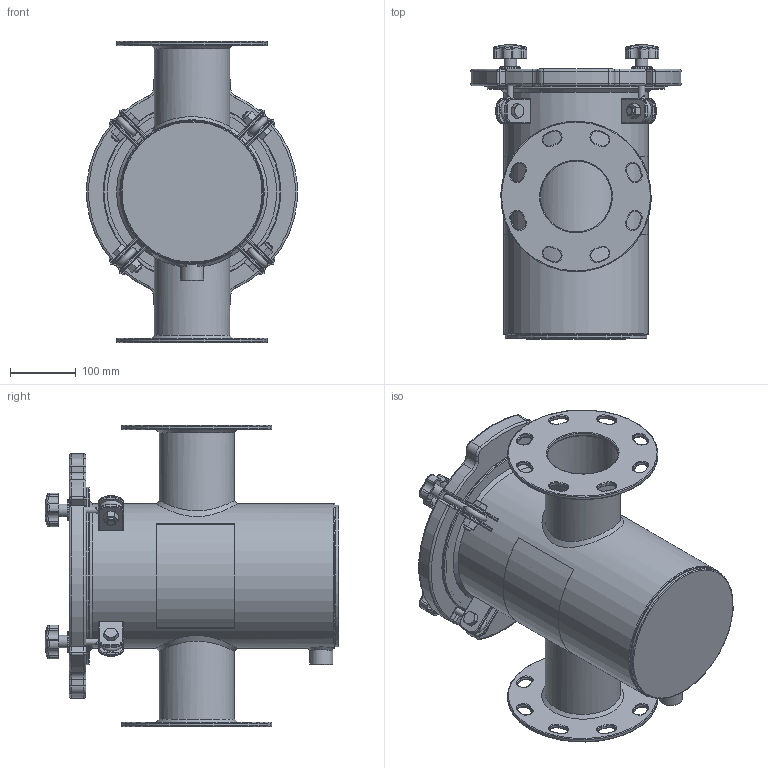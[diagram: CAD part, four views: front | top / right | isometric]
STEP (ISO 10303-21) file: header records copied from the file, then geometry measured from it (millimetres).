
FILE_DESCRIPTION(/* description */ ('8 5/8" STRAINER BODY'),/* implementation_level */ '2;1');
FILE_NAME(/* name */ 'X:\WIP\Ready for delivery - Do not Disturb -Updated with metric Flange\Workspace\SS Straight\150NBSTL04.stp',/* time_stamp */ '2016-09-29T19:54:38+05:00',/* author */ ('20093558'),/* organization */ (''),/* preprocessor_version */ 'ST-DEVELOPER v16.1',/* originating_system */ 'Autodesk Inventor 2016',/* authorisation */ '');
FILE_SCHEMA (('AUTOMOTIVE_DESIGN { 1 0 10303 214 3 1 1 }'));
Length unit declared in the file: inch
Products named in the file (28): NBSSBODY04_Welds; FOR NBSSBODY04; FOR 8 5(_FS)8 DIA STRAINER BODY; FOR 8 5(_FS)8 DIA STRAINER BODY_1; 8 5(_FS)8 Body; ConcentricPipe-4(_DQ); 4(_DQ); For 8 5(_FS)8 Body; ASME B16.11 Half Coupling Threaded - Class 3000 3_4 x 3_4; 8 5(_FS)8 Body_1; NBSSBODY04; 150NBCVR13R1; 150NBGSK08R1; Perforated Basket 8in; Bride (Ring) 8in; Baffle 8in; Handle 8in; Bottom Strainer 8in; NBBSK04T316; Nut- 1_2  UNC; Bolt-1_2 x 1 1_2  UNC; EyeBolt; Washer; Knob M10; Securing Assembly without Brace; Label for 8.625 inch (Right); Label for 8.625 inch (Left); Guardian SS H&L Strainer (Inch)
Assembly tree (42 placements, depth 3):
  Guardian SS H&L Strainer (Inch)
    NBSSBODY04
      NBSSBODY04_Welds
      FOR NBSSBODY04
      FOR 8 5(_FS)8 DIA STRAINER BODY
      FOR 8 5(_FS)8 DIA STRAINER BODY_1
      8 5(_FS)8 Body  x4
      ConcentricPipe-4(_DQ)  x2
      4(_DQ)  x2
      For 8 5(_FS)8 Body
      ASME B16.11 Half Coupling Threaded - Class 3000 3_4 x 3_4
      8 5(_FS)8 Body_1  x8
    150NBCVR13R1
    150NBGSK08R1
    NBBSK04T316
      Perforated Basket 8in
      Bride (Ring) 8in
      Baffle 8in
      Handle 8in
      Bottom Strainer 8in
    Securing Assembly without Brace  x4
      Nut- 1_2  UNC
      Bolt-1_2 x 1 1_2  UNC
      EyeBolt
      Washer
      Knob M10
    Label for 8.625 inch (Right)
    Label for 8.625 inch (Left)
Bounding box: 319.64 x 446.18 x 457.2 mm (x, y, z)
Volume: 4660385.5 mm3; surface area: 1802679.5 mm2
Topology: 65 solids, 65 shells, 1318 faces, 2939 edges, 1741 vertices
Faces by surface type: cylinder 466, plane 368, torus 259, cone 97, bspline 68, sphere 60
Full cylindrical faces by diameter (mm): 3.175 x10, 6.35 x1, 8.382 x4, 9.525 x8, 10.592 x4, 12.7 x4, 15.875 x8, 19 x8, 19.05 x4, 22.8 x1, 22.809 x1, 31.75 x4, 35.052 x1, 107.95 x2, 108.742 x4, 114.3 x6, 142.875 x2, 146.05 x1, 148.59 x1, 211.534 x3, 212.725 x1, 215.9 x2, 219.075 x2, 222.25 x1, 228.6 x2, 257.175 x1, 263.525 x1, 269.875 x1
Entity records: 23585 total; most frequent: CARTESIAN_POINT 7725, DIRECTION 3434, ORIENTED_EDGE 2808, AXIS2_PLACEMENT_3D 1446, EDGE_CURVE 1404, VERTEX_POINT 896, EDGE_LOOP 824, CIRCLE 688
